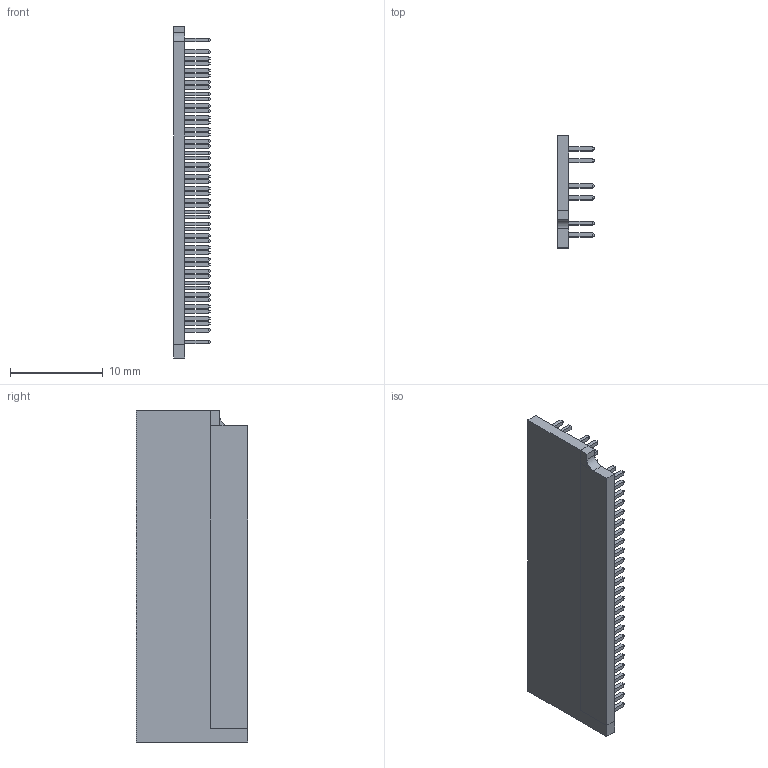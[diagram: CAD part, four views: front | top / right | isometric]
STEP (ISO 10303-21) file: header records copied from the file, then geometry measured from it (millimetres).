
FILE_DESCRIPTION(/* description */ ('VariCAD 2008 1.04 AP-203'),/* implementation_level */ '2;1');
FILE_NAME(/* name */ '0353-00-04',/* time_stamp */ '2008-06-02T00:25:20-06:00',/* author */ (''),/* organization */ (''),/* preprocessor_version */ 'ST-DEVELOPER v10',/* originating_system */ 'VariCAD 2008 1.04; kernel version (20071230)',/* authorisation */ '');
FILE_SCHEMA (('CONFIG_CONTROL_DESIGN'));
Length unit declared in the file: millimetre
Products named in the file (1): Part
Bounding box: 3.97 x 12 x 35.7 mm (x, y, z)
Volume: 573.9 mm3; surface area: 1602.1 mm2
Topology: 1 solids, 1 shells, 1367 faces, 3039 edges, 1824 vertices
Faces by surface type: plane 1366, cylinder 1
Entity records: 36213 total; most frequent: CARTESIAN_POINT 6232, ORIENTED_EDGE 6078, DIRECTION 5779, EDGE_CURVE 3039, LINE 3037, VECTOR 3037, VERTEX_POINT 1824, EDGE_LOOP 1517
